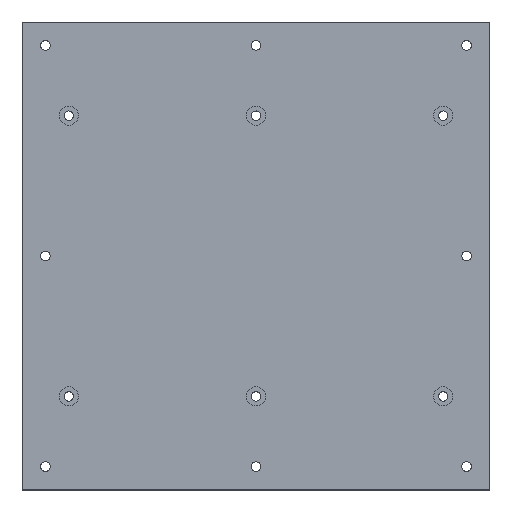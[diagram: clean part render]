
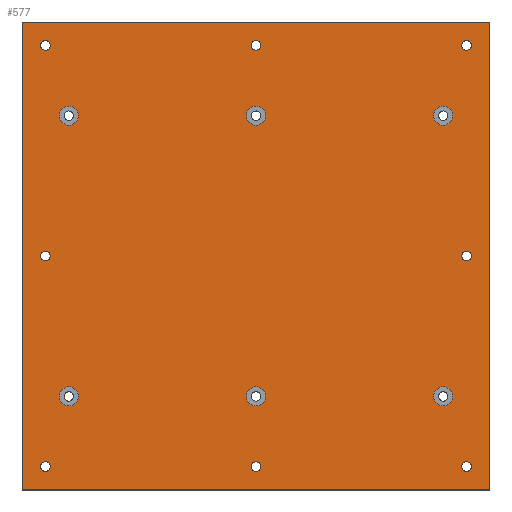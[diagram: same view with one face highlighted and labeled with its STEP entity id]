
A CAD part, top view. The second image highlights one B-rep face of the part: STEP entity #577.
In plain terms, the highlighted planar face has unit normal (0, 0, 1).
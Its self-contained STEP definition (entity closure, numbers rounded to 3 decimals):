
#21=FACE_BOUND('',#130,.T.);
#22=FACE_BOUND('',#131,.T.);
#23=FACE_BOUND('',#132,.T.);
#24=FACE_BOUND('',#133,.T.);
#25=FACE_BOUND('',#134,.T.);
#26=FACE_BOUND('',#135,.T.);
#27=FACE_BOUND('',#136,.T.);
#28=FACE_BOUND('',#137,.T.);
#29=FACE_BOUND('',#138,.T.);
#30=FACE_BOUND('',#139,.T.);
#31=FACE_BOUND('',#140,.T.);
#32=FACE_BOUND('',#141,.T.);
#33=FACE_BOUND('',#142,.T.);
#34=FACE_BOUND('',#143,.T.);
#59=PLANE('',#663);
#91=FACE_OUTER_BOUND('',#129,.T.);
#129=EDGE_LOOP('',(#491,#492,#493,#494));
#130=EDGE_LOOP('',(#495));
#131=EDGE_LOOP('',(#496));
#132=EDGE_LOOP('',(#497));
#133=EDGE_LOOP('',(#498));
#134=EDGE_LOOP('',(#499));
#135=EDGE_LOOP('',(#500));
#136=EDGE_LOOP('',(#501));
#137=EDGE_LOOP('',(#502));
#138=EDGE_LOOP('',(#503));
#139=EDGE_LOOP('',(#504));
#140=EDGE_LOOP('',(#505));
#141=EDGE_LOOP('',(#506));
#142=EDGE_LOOP('',(#507));
#143=EDGE_LOOP('',(#508));
#181=LINE('',#977,#213);
#184=LINE('',#983,#216);
#187=LINE('',#989,#219);
#190=LINE('',#993,#222);
#213=VECTOR('',#823,10.);
#216=VECTOR('',#828,10.);
#219=VECTOR('',#833,10.);
#222=VECTOR('',#838,10.);
#241=CIRCLE('',#624,2.05);
#242=CIRCLE('',#626,1.025);
#244=CIRCLE('',#629,2.05);
#245=CIRCLE('',#631,1.025);
#247=CIRCLE('',#634,1.025);
#249=CIRCLE('',#637,1.025);
#251=CIRCLE('',#640,2.05);
#252=CIRCLE('',#642,2.05);
#253=CIRCLE('',#644,1.025);
#255=CIRCLE('',#647,1.025);
#257=CIRCLE('',#650,2.05);
#258=CIRCLE('',#652,1.025);
#260=CIRCLE('',#655,1.025);
#262=CIRCLE('',#658,2.05);
#281=VERTEX_POINT('',#899);
#282=VERTEX_POINT('',#903);
#284=VERTEX_POINT('',#909);
#285=VERTEX_POINT('',#913);
#287=VERTEX_POINT('',#919);
#289=VERTEX_POINT('',#925);
#291=VERTEX_POINT('',#931);
#292=VERTEX_POINT('',#935);
#293=VERTEX_POINT('',#939);
#295=VERTEX_POINT('',#945);
#297=VERTEX_POINT('',#951);
#298=VERTEX_POINT('',#955);
#300=VERTEX_POINT('',#961);
#302=VERTEX_POINT('',#967);
#305=VERTEX_POINT('',#974);
#306=VERTEX_POINT('',#976);
#308=VERTEX_POINT('',#982);
#310=VERTEX_POINT('',#988);
#335=EDGE_CURVE('',#281,#281,#241,.T.);
#337=EDGE_CURVE('',#282,#282,#242,.T.);
#340=EDGE_CURVE('',#284,#284,#244,.T.);
#342=EDGE_CURVE('',#285,#285,#245,.T.);
#345=EDGE_CURVE('',#287,#287,#247,.T.);
#348=EDGE_CURVE('',#289,#289,#249,.T.);
#351=EDGE_CURVE('',#291,#291,#251,.T.);
#353=EDGE_CURVE('',#292,#292,#252,.T.);
#355=EDGE_CURVE('',#293,#293,#253,.T.);
#358=EDGE_CURVE('',#295,#295,#255,.T.);
#361=EDGE_CURVE('',#297,#297,#257,.T.);
#363=EDGE_CURVE('',#298,#298,#258,.T.);
#366=EDGE_CURVE('',#300,#300,#260,.T.);
#369=EDGE_CURVE('',#302,#302,#262,.T.);
#373=EDGE_CURVE('',#306,#305,#181,.T.);
#376=EDGE_CURVE('',#308,#306,#184,.T.);
#379=EDGE_CURVE('',#310,#308,#187,.T.);
#382=EDGE_CURVE('',#305,#310,#190,.T.);
#491=ORIENTED_EDGE('',*,*,#382,.T.);
#492=ORIENTED_EDGE('',*,*,#379,.T.);
#493=ORIENTED_EDGE('',*,*,#376,.T.);
#494=ORIENTED_EDGE('',*,*,#373,.T.);
#495=ORIENTED_EDGE('',*,*,#369,.T.);
#496=ORIENTED_EDGE('',*,*,#366,.T.);
#497=ORIENTED_EDGE('',*,*,#363,.T.);
#498=ORIENTED_EDGE('',*,*,#361,.T.);
#499=ORIENTED_EDGE('',*,*,#358,.T.);
#500=ORIENTED_EDGE('',*,*,#355,.T.);
#501=ORIENTED_EDGE('',*,*,#353,.T.);
#502=ORIENTED_EDGE('',*,*,#351,.T.);
#503=ORIENTED_EDGE('',*,*,#348,.T.);
#504=ORIENTED_EDGE('',*,*,#345,.T.);
#505=ORIENTED_EDGE('',*,*,#342,.T.);
#506=ORIENTED_EDGE('',*,*,#340,.T.);
#507=ORIENTED_EDGE('',*,*,#337,.T.);
#508=ORIENTED_EDGE('',*,*,#335,.T.);
#577=ADVANCED_FACE('',(#91,#21,#22,#23,#24,#25,#26,#27,#28,#29,#30,#31,
#32,#33,#34),#59,.T.);
#624=AXIS2_PLACEMENT_3D('',#900,#735,#736);
#626=AXIS2_PLACEMENT_3D('',#904,#740,#741);
#629=AXIS2_PLACEMENT_3D('',#910,#747,#748);
#631=AXIS2_PLACEMENT_3D('',#914,#752,#753);
#634=AXIS2_PLACEMENT_3D('',#920,#759,#760);
#637=AXIS2_PLACEMENT_3D('',#926,#766,#767);
#640=AXIS2_PLACEMENT_3D('',#932,#773,#774);
#642=AXIS2_PLACEMENT_3D('',#936,#778,#779);
#644=AXIS2_PLACEMENT_3D('',#940,#783,#784);
#647=AXIS2_PLACEMENT_3D('',#946,#790,#791);
#650=AXIS2_PLACEMENT_3D('',#952,#797,#798);
#652=AXIS2_PLACEMENT_3D('',#956,#802,#803);
#655=AXIS2_PLACEMENT_3D('',#962,#809,#810);
#658=AXIS2_PLACEMENT_3D('',#968,#816,#817);
#663=AXIS2_PLACEMENT_3D('',#994,#839,#840);
#735=DIRECTION('center_axis',(0.,0.,-1.));
#736=DIRECTION('ref_axis',(1.,0.,0.));
#740=DIRECTION('center_axis',(0.,0.,-1.));
#741=DIRECTION('ref_axis',(1.,0.,0.));
#747=DIRECTION('center_axis',(0.,0.,-1.));
#748=DIRECTION('ref_axis',(1.,0.,0.));
#752=DIRECTION('center_axis',(0.,0.,-1.));
#753=DIRECTION('ref_axis',(1.,0.,0.));
#759=DIRECTION('center_axis',(0.,0.,-1.));
#760=DIRECTION('ref_axis',(1.,0.,0.));
#766=DIRECTION('center_axis',(0.,0.,-1.));
#767=DIRECTION('ref_axis',(1.,0.,0.));
#773=DIRECTION('center_axis',(0.,0.,-1.));
#774=DIRECTION('ref_axis',(1.,0.,0.));
#778=DIRECTION('center_axis',(0.,0.,-1.));
#779=DIRECTION('ref_axis',(1.,0.,0.));
#783=DIRECTION('center_axis',(0.,0.,-1.));
#784=DIRECTION('ref_axis',(1.,0.,0.));
#790=DIRECTION('center_axis',(0.,0.,-1.));
#791=DIRECTION('ref_axis',(1.,0.,0.));
#797=DIRECTION('center_axis',(0.,0.,-1.));
#798=DIRECTION('ref_axis',(1.,0.,0.));
#802=DIRECTION('center_axis',(0.,0.,-1.));
#803=DIRECTION('ref_axis',(1.,0.,0.));
#809=DIRECTION('center_axis',(0.,0.,-1.));
#810=DIRECTION('ref_axis',(1.,0.,0.));
#816=DIRECTION('center_axis',(0.,0.,-1.));
#817=DIRECTION('ref_axis',(1.,0.,0.));
#823=DIRECTION('',(1.,0.,0.));
#828=DIRECTION('',(0.,-1.,0.));
#833=DIRECTION('',(-1.,0.,0.));
#838=DIRECTION('',(0.,1.,0.));
#839=DIRECTION('center_axis',(0.,0.,1.));
#840=DIRECTION('ref_axis',(1.,0.,0.));
#899=CARTESIAN_POINT('',(37.95,30.,3.5));
#900=CARTESIAN_POINT('Origin',(40.,30.,3.5));
#903=CARTESIAN_POINT('',(-46.025,0.,3.5));
#904=CARTESIAN_POINT('Origin',(-45.,0.,3.5));
#909=CARTESIAN_POINT('',(-2.05,30.,3.5));
#910=CARTESIAN_POINT('Origin',(0.,30.,3.5));
#913=CARTESIAN_POINT('',(43.975,-45.,3.5));
#914=CARTESIAN_POINT('Origin',(45.,-45.,3.5));
#919=CARTESIAN_POINT('',(-46.025,45.,3.5));
#920=CARTESIAN_POINT('Origin',(-45.,45.,3.5));
#925=CARTESIAN_POINT('',(43.975,0.,3.5));
#926=CARTESIAN_POINT('Origin',(45.,0.,3.5));
#931=CARTESIAN_POINT('',(-42.05,30.,3.5));
#932=CARTESIAN_POINT('Origin',(-40.,30.,3.5));
#935=CARTESIAN_POINT('',(37.95,-30.,3.5));
#936=CARTESIAN_POINT('Origin',(40.,-30.,3.5));
#939=CARTESIAN_POINT('',(-1.025,-45.,3.5));
#940=CARTESIAN_POINT('Origin',(0.,-45.,3.5));
#945=CARTESIAN_POINT('',(43.975,45.,3.5));
#946=CARTESIAN_POINT('Origin',(45.,45.,3.5));
#951=CARTESIAN_POINT('',(-2.05,-30.,3.5));
#952=CARTESIAN_POINT('Origin',(0.,-30.,3.5));
#955=CARTESIAN_POINT('',(-46.025,-45.,3.5));
#956=CARTESIAN_POINT('Origin',(-45.,-45.,3.5));
#961=CARTESIAN_POINT('',(-1.025,45.,3.5));
#962=CARTESIAN_POINT('Origin',(0.,45.,3.5));
#967=CARTESIAN_POINT('',(-42.05,-30.,3.5));
#968=CARTESIAN_POINT('Origin',(-40.,-30.,3.5));
#974=CARTESIAN_POINT('',(50.,-50.,3.5));
#976=CARTESIAN_POINT('',(-50.,-50.,3.5));
#977=CARTESIAN_POINT('',(-50.,-50.,3.5));
#982=CARTESIAN_POINT('',(-50.,50.,3.5));
#983=CARTESIAN_POINT('',(-50.,50.,3.5));
#988=CARTESIAN_POINT('',(50.,50.,3.5));
#989=CARTESIAN_POINT('',(50.,50.,3.5));
#993=CARTESIAN_POINT('',(50.,-50.,3.5));
#994=CARTESIAN_POINT('Origin',(0.,0.,3.5));
